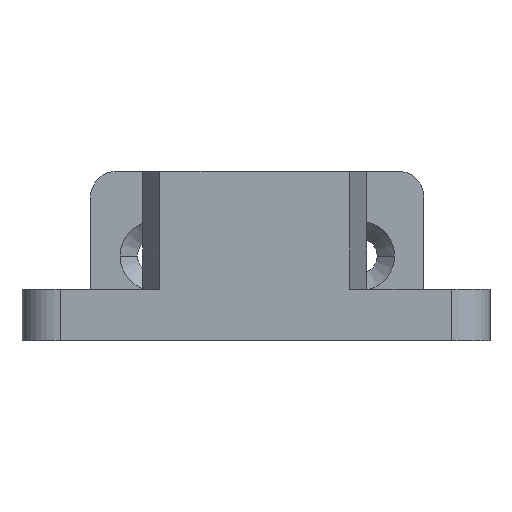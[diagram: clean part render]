
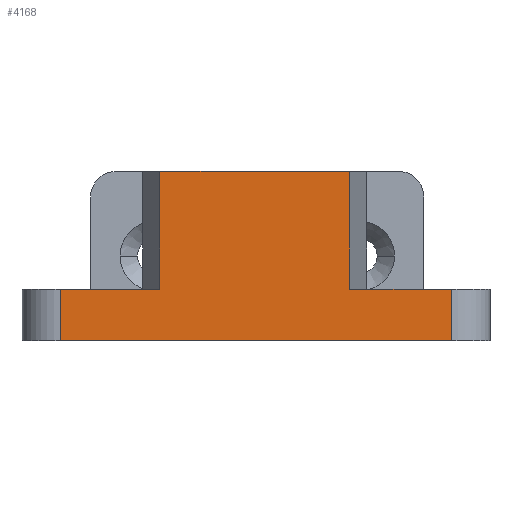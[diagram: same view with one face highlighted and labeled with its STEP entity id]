
A CAD part, left-side view. The second image highlights one B-rep face of the part: STEP entity #4168.
In plain terms, the highlighted planar face has unit normal (-1, 0, 0).
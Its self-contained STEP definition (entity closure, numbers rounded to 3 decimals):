
#98 = CARTESIAN_POINT ( 'NONE',  ( -18.5, -7.4, 9.2 ) ) ;
#214 = LINE ( 'NONE', #215, #216 ) ;
#215 = CARTESIAN_POINT ( 'NONE',  ( -18.5, -7.4, 9.2 ) ) ;
#216 = VECTOR ( 'NONE', #217, 1000. ) ;
#217 = DIRECTION ( 'NONE',  ( 0., 0., -1. ) ) ;
#353 = CARTESIAN_POINT ( 'NONE',  ( -18.5, 15.15, -4. ) ) ;
#430 = CARTESIAN_POINT ( 'NONE',  ( -18.5, -15.35, 0. ) ) ;
#525 = LINE ( 'NONE', #526, #527 ) ;
#526 = CARTESIAN_POINT ( 'NONE',  ( -18.5, -18.35, -4. ) ) ;
#527 = VECTOR ( 'NONE', #528, 1000. ) ;
#528 = DIRECTION ( 'NONE',  ( 0., -1., 0. ) ) ;
#533 = LINE ( 'NONE', #534, #535 ) ;
#534 = CARTESIAN_POINT ( 'NONE',  ( -18.5, -18.35, 0. ) ) ;
#535 = VECTOR ( 'NONE', #536, 1000. ) ;
#536 = DIRECTION ( 'NONE',  ( 0., -1., 0. ) ) ;
#678 = CARTESIAN_POINT ( 'NONE',  ( -18.5, 15.15, 0. ) ) ;
#747 = LINE ( 'NONE', #748, #749 ) ;
#748 = CARTESIAN_POINT ( 'NONE',  ( -18.5, 15.15, -4. ) ) ;
#749 = VECTOR ( 'NONE', #750, 1000. ) ;
#750 = DIRECTION ( 'NONE',  ( 0., 0., -1. ) ) ;
#950 = FACE_OUTER_BOUND ( 'NONE', #4153, .T. ) ;
#951 = PLANE ( 'NONE',  #952 ) ;
#952 = AXIS2_PLACEMENT_3D ( 'NONE', #953, #955, #956 ) ;
#953 = CARTESIAN_POINT ( 'NONE',  ( -18.5, -18.35, -4. ) ) ;
#955 = DIRECTION ( 'NONE',  ( -1., 0., 0. ) ) ;
#956 = DIRECTION ( 'NONE',  ( 0., -1., 0. ) ) ;
#957 = LINE ( 'NONE', #958, #959 ) ;
#958 = CARTESIAN_POINT ( 'NONE',  ( -18.5, -15.35, -4. ) ) ;
#959 = VECTOR ( 'NONE', #960, 1000. ) ;
#960 = DIRECTION ( 'NONE',  ( 0., 0., 1. ) ) ;
#1053 = CARTESIAN_POINT ( 'NONE',  ( -18.5, -15.35, -4. ) ) ;
#2042 = VERTEX_POINT ( 'NONE', #430 ) ;
#2175 = VERTEX_POINT ( 'NONE', #2765 ) ;
#2194 = EDGE_CURVE ( 'NONE', #3093, #2175, #2957, .T. ) ;
#2331 = VERTEX_POINT ( 'NONE', #3711 ) ;
#2462 = VERTEX_POINT ( 'NONE', #353 ) ;
#2765 = CARTESIAN_POINT ( 'NONE',  ( -18.5, 7.4, 0. ) ) ;
#2772 = LINE ( 'NONE', #2773, #2774 ) ;
#2773 = CARTESIAN_POINT ( 'NONE',  ( -18.5, 7.4, 9.2 ) ) ;
#2774 = VECTOR ( 'NONE', #2775, 1000. ) ;
#2775 = DIRECTION ( 'NONE',  ( 0., 0., -1. ) ) ;
#2797 = EDGE_CURVE ( 'NONE', #2331, #2042, #533, .T. ) ;
#2957 = LINE ( 'NONE', #2962, #2963 ) ;
#2962 = CARTESIAN_POINT ( 'NONE',  ( -18.5, -18.35, 0. ) ) ;
#2963 = VECTOR ( 'NONE', #2964, 1000. ) ;
#2964 = DIRECTION ( 'NONE',  ( 0., -1., 0. ) ) ;
#3036 = ORIENTED_EDGE ( 'NONE', *, *, #2797, .F. ) ;
#3093 = VERTEX_POINT ( 'NONE', #678 ) ;
#3190 = EDGE_CURVE ( 'NONE', #3093, #2462, #747, .T. ) ;
#3363 = CARTESIAN_POINT ( 'NONE',  ( -18.5, 7.4, 9.2 ) ) ;
#3478 = LINE ( 'NONE', #3479, #3480 ) ;
#3479 = CARTESIAN_POINT ( 'NONE',  ( -18.5, 7.4, 9.2 ) ) ;
#3480 = VECTOR ( 'NONE', #3481, 1000. ) ;
#3481 = DIRECTION ( 'NONE',  ( 0., -1., 0. ) ) ;
#3562 = ORIENTED_EDGE ( 'NONE', *, *, #3190, .T. ) ;
#3563 = EDGE_CURVE ( 'NONE', #3733, #2042, #957, .T. ) ;
#3711 = CARTESIAN_POINT ( 'NONE',  ( -18.5, -7.4, 0. ) ) ;
#3733 = VERTEX_POINT ( 'NONE', #1053 ) ;
#3850 = ORIENTED_EDGE ( 'NONE', *, *, #3563, .T. ) ;
#3862 = ORIENTED_EDGE ( 'NONE', *, *, #2194, .F. ) ;
#3884 = ORIENTED_EDGE ( 'NONE', *, *, #4118, .T. ) ;
#3901 = EDGE_CURVE ( 'NONE', #3970, #2175, #2772, .T. ) ;
#3945 = ORIENTED_EDGE ( 'NONE', *, *, #3901, .T. ) ;
#3970 = VERTEX_POINT ( 'NONE', #3363 ) ;
#3993 = EDGE_CURVE ( 'NONE', #3970, #4057, #3478, .T. ) ;
#4018 = ORIENTED_EDGE ( 'NONE', *, *, #3993, .F. ) ;
#4057 = VERTEX_POINT ( 'NONE', #98 ) ;
#4072 = EDGE_CURVE ( 'NONE', #4057, #2331, #214, .T. ) ;
#4101 = ORIENTED_EDGE ( 'NONE', *, *, #4072, .F. ) ;
#4118 = EDGE_CURVE ( 'NONE', #2462, #3733, #525, .T. ) ;
#4153 = EDGE_LOOP ( 'NONE', ( #3884, #3850, #3036, #4101, #4018, #3945, #3862, #3562 ) ) ;
#4168 = ADVANCED_FACE ( 'NONE', ( #950 ), #951, .T. ) ;
